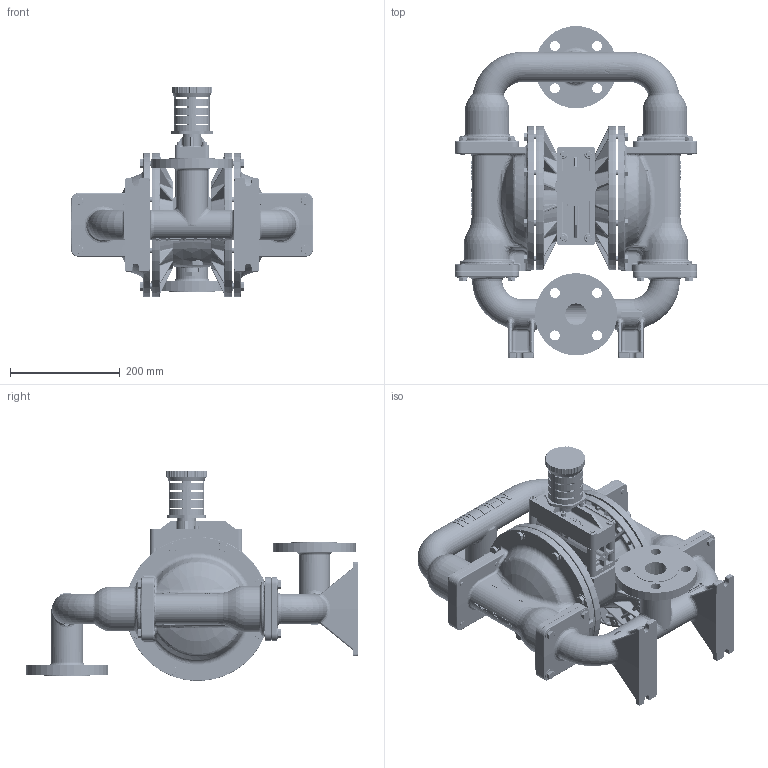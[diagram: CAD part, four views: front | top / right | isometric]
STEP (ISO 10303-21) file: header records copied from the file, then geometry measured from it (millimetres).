
FILE_DESCRIPTION((''),'2;1');
FILE_NAME('P430_ALUM_TOP_SW0003','2017-08-15T',('10013162'),(''),'PRO/ENGINEER BY PARAMETRIC TECHNOLOGY CORPORATION, 2015360','PRO/ENGINEER BY PARAMETRIC TECHNOLOGY CORPORATION, 2015360','');
FILE_SCHEMA(('CONFIG_CONTROL_DESIGN'));
Products named in the file (1): P430_ALUM_TOP_SW0003
Bounding box: 442.46 x 605.94 x 384.43 mm (x, y, z)
Volume: 7300411.6 mm3; surface area: 1774721.8 mm2
Topology: 1 solids, 1 shells, 11740 faces, 29762 edges, 18220 vertices
Faces by surface type: plane 5363, bspline 2267, cylinder 1803, torus 970, cone 864, sphere 409, extrusion 64
Entity records: 644968 total; most frequent: CARTESIAN_POINT 383181, ORIENTED_EDGE 59128, DIRECTION 48230, EDGE_CURVE 29564, VERTEX_POINT 18220, AXIS2_PLACEMENT_3D 17211, VECTOR 13808, LINE 13744
